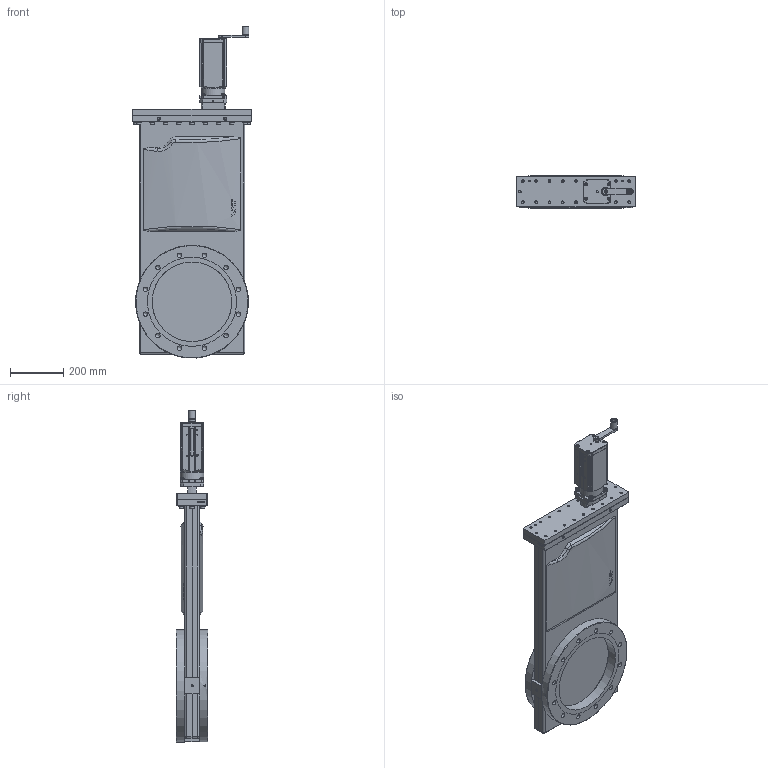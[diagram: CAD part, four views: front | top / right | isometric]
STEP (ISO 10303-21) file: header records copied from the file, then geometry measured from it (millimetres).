
FILE_DESCRIPTION(/* description */ (''),/* implementation_level */ '2;1');
FILE_NAME(/* name */ '1962836550_203.stp',/* time_stamp */ '2015-02-05T15:57:41+01:00',/* author */ (''),/* organization */ (''),/* preprocessor_version */ 'ST-DEVELOPER v11',/* originating_system */ 'SIEMENS PLM Software NX 7.5',/* authorisation */ '');
FILE_SCHEMA (('AP203_CONFIGURATION_CONTROLLED_3D_DESIGN_OF_MECHANICAL_PARTS_AND_ASSEMBLIES_MIM_LF'));
Length unit declared in the file: millimetre
Products named in the file (36): 65664-01.2_21212ID; n-6005-790; N-5054-012.1; N-6198-006.1; 78965-01.1; 94489-01.1; 94481-01.1; 457464_20671ID; 457464_20670ID; 386293_20679ID; 79156-01.2; 438481; N-6099-458.1; N-6250-110.1; 438450; 74628-01.3; 65313-01.1; 86824-01.2; 245752.1_20673ID; 245752.1_53064ID; 86831.2; 224811.1; 79157-01.2; 752549; n-6134-410; 218206.1; 752564; 752844_MODEL; 752866; 224810_MODEL; 438504; 438500; 752520_NX-ARRAGMNTMASSBILD; 386313_MODEL; 325646.1_MODEL; 559421
Assembly tree (84 placements, depth 5):
  559421
    325646.1_MODEL
      386313_MODEL
        386293_20679ID
        457464_20670ID
        457464_20671ID
      86831.2  x3
      245752.1_53064ID
      245752.1_20673ID
    752520_NX-ARRAGMNTMASSBILD
      86824-01.2
      65313-01.1
      74628-01.3
    752564
    218206.1  x20
    n-6134-410  x20
    752549
    438500
      438450
      N-6250-110.1
      438504
        94481-01.1
        94489-01.1
        78965-01.1
        N-6198-006.1
        N-5054-012.1
      224810_MODEL  x4
        n-6005-790
      N-6099-458.1
      438481
      79156-01.2
      752866
        752844_MODEL
          65664-01.2_21212ID
    79157-01.2  x4
    224811.1  x4
Bounding box: 448 x 120 x 1249.09 mm (x, y, z)
Volume: 13221384.6 mm3; surface area: 2687553.5 mm2
Topology: 132 solids, 132 shells, 1548 faces, 3589 edges, 2349 vertices
Faces by surface type: plane 762, cylinder 516, cone 131, torus 44, extrusion 38, bspline 35, sphere 22
Full cylindrical faces by diameter (mm): 2.125 x1, 2.8 x1, 3 x1, 3.3 x4, 4 x1, 4.35 x5, 4.5 x2, 4.6 x2, 4.96 x8, 5 x18, 5.97 x1, 5.99 x2, 5.994 x2, 6 x18, 6.1 x1, 6.15 x1, 6.25 x2, 6.45 x8, 7 x1, 7.1 x1, 8.25 x4, 8.3 x1, 8.36 x20, 8.4 x20, 8.5 x31, 10 x48, 10.15 x4, 10.5 x24, 11 x24, 12 x4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
Entity records: 39582 total; most frequent: CARTESIAN_POINT 9191, DIRECTION 4239, ORIENTED_EDGE 4092, EDGE_CURVE 2046, AXIS2_PLACEMENT_3D 1729, VERTEX_POINT 1584, EDGE_LOOP 1534, FACE_BOUND 1038
